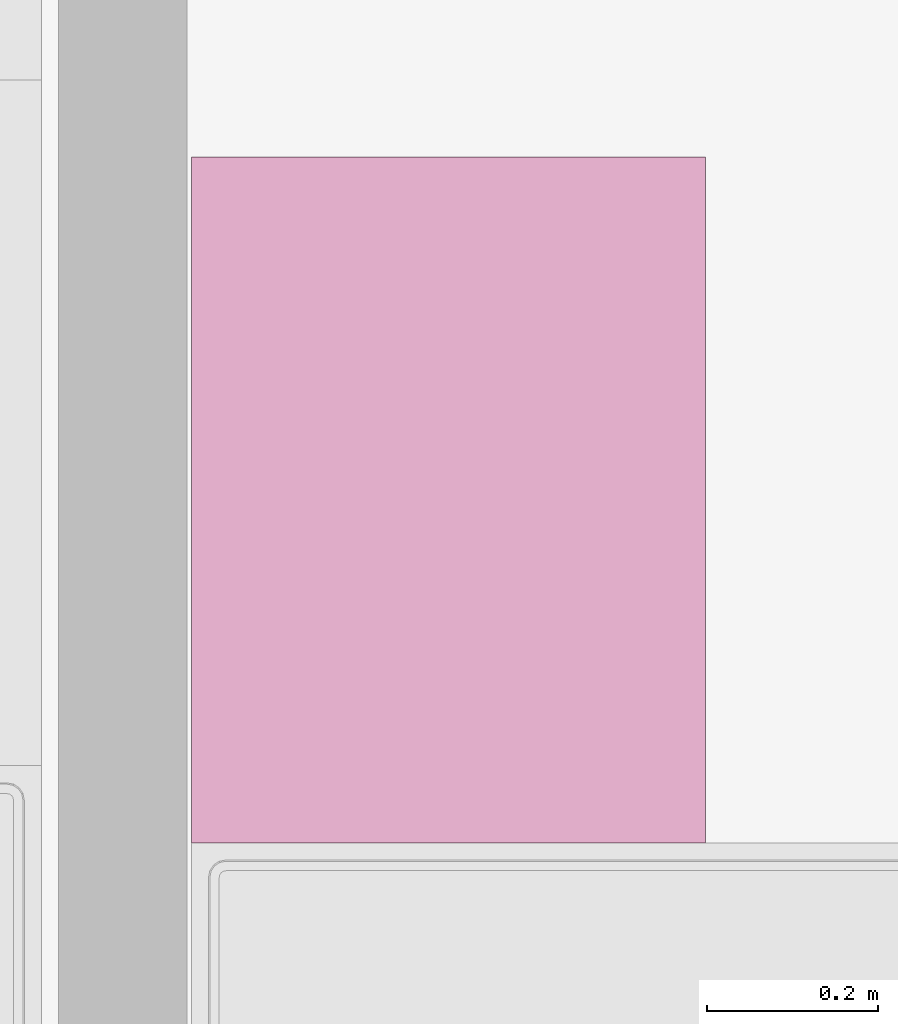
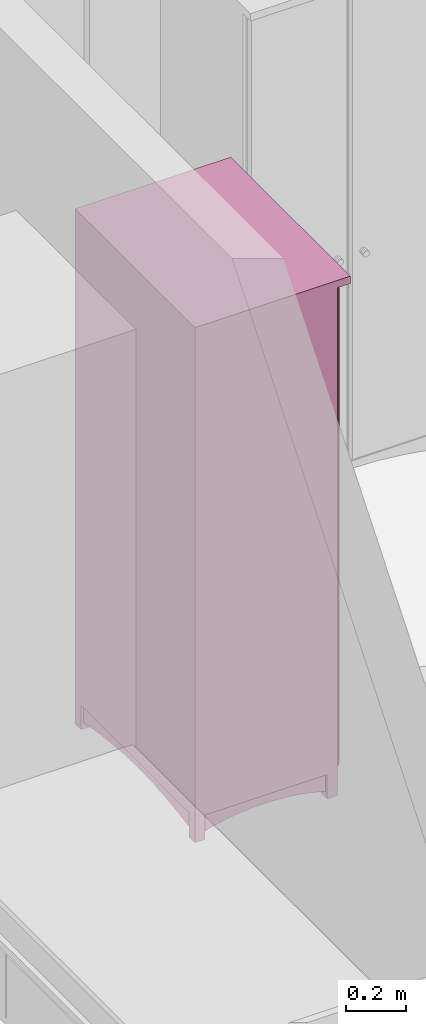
# One storey, part 79 of 172: 1 furnishing.
"""IFC2X3 building model written with IfcOpenShell, lengths in millimetres."""

from ifc_helpers import new_model, entity, si_unit, converted_unit, money_unit, direction, frame, origin_with_axes, place, context, subcontext, project, spatial, faceted_brep, source, transform, mapped, material, material_list, type_object, element, save


model = new_model("IFC2X3")

# Units and contexts
model_context = context("Model", 3, precision=1e-05, world=origin_with_axes(), true_north=direction((0.0, 1.0)))
body_context = subcontext(model_context, "Body", "Model", "MODEL_VIEW")
ifc_project = project(units=[si_unit("LENGTHUNIT", "METRE", prefix="MILLI"), si_unit("AREAUNIT", "SQUARE_METRE"), si_unit("VOLUMEUNIT", "CUBIC_METRE"), converted_unit("PLANEANGLEUNIT", "DEGREE", entity("IfcPlaneAngleMeasure", 0.0174532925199), si_unit("PLANEANGLEUNIT", "RADIAN"), dimensions=[0, 0, 0, 0, 0, 0, 0]), si_unit("SOLIDANGLEUNIT", "STERADIAN"), money_unit("USD"), converted_unit("TIMEUNIT", "Year", entity("IfcTimeMeasure", 31556926.0), si_unit("TIMEUNIT", "SECOND"), dimensions=[0, 0, 0, 0, 0, 0, 0]), si_unit("MASSUNIT", "GRAM"), si_unit("THERMODYNAMICTEMPERATUREUNIT", "DEGREE_CELSIUS"), si_unit("LUMINOUSINTENSITYUNIT", "LUMEN")], contexts=[model_context])

# Site, building, storey
site_placement = place(None, origin_with_axes())
site = spatial("IfcSite", under=ifc_project, at=site_placement, Name="Site", CompositionType="ELEMENT")
building_placement = place(site_placement, origin_with_axes())
building = spatial("IfcBuilding", under=site, at=building_placement, Name="Building", CompositionType="ELEMENT")
storey_placement = place(building_placement, frame((0.0, 0.0, 3200.0), z_axis=(0.0, 0.0, 1.0), x_axis=(1.0, 0.0, 0.0)))
storey = spatial("IfcBuildingStorey", under=building, at=storey_placement, Name="3KORRUS", CompositionType="ELEMENT", Elevation=3200.0)

# Furnishing
ifc_material = material(Name="Background")
ifc_material_list = material_list([ifc_material])
furnishing_element_type = type_object("IfcFurnishingElementType", Name="Cupboard 19")
shared_shape = source(origin_with_axes(), body_context, "Body", "Brep", [
    faceted_brep([(780.0, 600.0, 120.0), (780.0, 600.0, 2050.0), (780.0, 580.0, 2050.0), (780.0, 580.0, 120.0), (20.0, 600.0, 120.0), (20.0, 600.0, 2050.0), (20.0, 580.0, 2050.0), (20.0, 580.0, 120.0)], [[[0, 1, 2, 3]], [[4, 5, 1, 0]], [[1, 5, 6, 2]], [[3, 2, 6, 7]], [[0, 3, 7, 4]], [[7, 6, 5, 4]]]),
    faceted_brep([(0.0, 50.0, 100.0), (0.0, 600.0, 100.0), (20.0, 600.0, 100.0), (20.0, 50.0, 100.0), (0.0, 50.0, 2070.0), (0.0, 600.0, 2070.0), (20.0, 600.0, 2070.0), (20.0, 50.0, 2070.0)], [[[0, 1, 2, 3]], [[0, 4, 5, 1]], [[1, 5, 6, 2]], [[2, 6, 7, 3]], [[3, 7, 4, 0]], [[7, 6, 5, 4]]]),
    faceted_brep([(780.0, 50.0, 100.0), (780.0, 600.0, 100.0), (800.0, 600.0, 100.0), (800.0, 50.0, 100.0), (780.0, 50.0, 2070.0), (780.0, 600.0, 2070.0), (800.0, 600.0, 2070.0), (800.0, 50.0, 2070.0)], [[[0, 1, 2, 3]], [[0, 4, 5, 1]], [[1, 5, 6, 2]], [[2, 6, 7, 3]], [[3, 7, 4, 0]], [[7, 6, 5, 4]]]),
    faceted_brep([(20.0, 50.0, 100.0), (20.0, 600.0, 100.0), (780.0, 600.0, 100.0), (780.0, 50.0, 100.0), (20.0, 50.0, 120.0), (20.0, 600.0, 120.0), (780.0, 600.0, 120.0), (780.0, 50.0, 120.0)], [[[0, 1, 2, 3]], [[0, 4, 5, 1]], [[1, 5, 6, 2]], [[2, 6, 7, 3]], [[3, 7, 4, 0]], [[7, 6, 5, 4]]]),
    faceted_brep([(20.0, 50.0, 2050.0), (20.0, 600.0, 2050.0), (780.0, 600.0, 2050.0), (780.0, 50.0, 2050.0), (20.0, 50.0, 2070.0), (20.0, 600.0, 2070.0), (780.0, 600.0, 2070.0), (780.0, 50.0, 2070.0)], [[[0, 1, 2, 3]], [[0, 4, 5, 1]], [[1, 5, 6, 2]], [[2, 6, 7, 3]], [[3, 7, 4, 0]], [[7, 6, 5, 4]]]),
    faceted_brep([(0.0, 600.0, 2070.0), (0.0, 0.0, 2070.0), (0.0, 0.0, 2100.0), (0.0, 600.0, 2100.0), (800.0, 600.0, 2070.0), (800.0, 0.0, 2070.0), (800.0, 0.0, 2100.0), (800.0, 600.0, 2100.0)], [[[0, 1, 2, 3]], [[0, 4, 5, 1]], [[1, 5, 6, 2]], [[3, 2, 6, 7]], [[4, 0, 3, 7]], [[5, 4, 7, 6]]]),
    faceted_brep([(760.0, 590.0, 25.0), (760.0, 570.0, 25.0), (640.962, 570.0, 45.8), (640.962, 590.0, 45.8), (760.0, 590.0, 100.0), (760.0, 570.0, 100.0), (40.0, 570.0, 100.0), (40.0, 570.0, 25.0), (159.038, 570.0, 45.8), (279.23, 570.0, 58.32), (400.0, 570.0, 62.5), (520.77, 570.0, 58.32), (520.77, 590.0, 58.32), (400.0, 590.0, 62.5), (279.23, 590.0, 58.32), (159.038, 590.0, 45.8), (40.0, 590.0, 25.0), (40.0, 590.0, 100.0)], [[[0, 1, 2, 3]], [[4, 5, 1, 0]], [[1, 5, 6, 7, 8, 9, 10, 11, 2]], [[3, 2, 11, 12]], [[0, 3, 12, 13, 14, 15, 16, 17, 4]], [[17, 6, 5, 4]], [[16, 7, 6, 17]], [[15, 8, 7, 16]], [[14, 9, 8, 15]], [[13, 10, 9, 14]], [[12, 11, 10, 13]]]),
    faceted_brep([(760.0, 80.0, 25.0), (760.0, 60.0, 25.0), (640.962, 60.0, 45.8), (640.962, 80.0, 45.8), (760.0, 80.0, 100.0), (760.0, 60.0, 100.0), (40.0, 60.0, 100.0), (40.0, 60.0, 25.0), (159.038, 60.0, 45.8), (279.23, 60.0, 58.32), (400.0, 60.0, 62.5), (520.77, 60.0, 58.32), (520.77, 80.0, 58.32), (400.0, 80.0, 62.5), (279.23, 80.0, 58.32), (159.038, 80.0, 45.8), (40.0, 80.0, 25.0), (40.0, 80.0, 100.0)], [[[0, 1, 2, 3]], [[4, 5, 1, 0]], [[1, 5, 6, 7, 8, 9, 10, 11, 2]], [[3, 2, 11, 12]], [[0, 3, 12, 13, 14, 15, 16, 17, 4]], [[17, 6, 5, 4]], [[16, 7, 6, 17]], [[15, 8, 7, 16]], [[14, 9, 8, 15]], [[13, 10, 9, 14]], [[12, 11, 10, 13]]]),
    faceted_brep([(790.0, 90.0, 25.0), (770.0, 90.0, 25.0), (770.0, 141.266, 38.072), (790.0, 141.266, 38.072), (790.0, 90.0, 100.0), (770.0, 90.0, 100.0), (770.0, 560.0, 100.0), (770.0, 560.0, 25.0), (770.0, 508.734, 38.072), (770.0, 456.752, 47.92), (770.0, 404.257, 54.508), (770.0, 351.453, 57.808), (770.0, 298.547, 57.808), (770.0, 245.743, 54.508), (770.0, 193.248, 47.92), (790.0, 193.248, 47.92), (790.0, 245.743, 54.508), (790.0, 298.547, 57.808), (790.0, 351.453, 57.808), (790.0, 404.257, 54.508), (790.0, 456.752, 47.92), (790.0, 508.734, 38.072), (790.0, 560.0, 25.0), (790.0, 560.0, 100.0)], [[[0, 1, 2, 3]], [[4, 5, 1, 0]], [[1, 5, 6, 7, 8, 9, 10, 11, 12, 13, 14, 2]], [[3, 2, 14, 15]], [[0, 3, 15, 16, 17, 18, 19, 20, 21, 22, 23, 4]], [[23, 6, 5, 4]], [[22, 7, 6, 23]], [[21, 8, 7, 22]], [[20, 9, 8, 21]], [[19, 10, 9, 20]], [[18, 11, 10, 19]], [[17, 12, 11, 18]], [[16, 13, 12, 17]], [[15, 14, 13, 16]]]),
    faceted_brep([(30.0, 90.0, 25.0), (10.0, 90.0, 25.0), (10.0, 141.266, 38.072), (30.0, 141.266, 38.072), (30.0, 90.0, 100.0), (10.0, 90.0, 100.0), (10.0, 560.0, 100.0), (10.0, 560.0, 25.0), (10.0, 508.734, 38.072), (10.0, 456.752, 47.92), (10.0, 404.257, 54.508), (10.0, 351.453, 57.808), (10.0, 298.547, 57.808), (10.0, 245.743, 54.508), (10.0, 193.248, 47.92), (30.0, 193.248, 47.92), (30.0, 245.743, 54.508), (30.0, 298.547, 57.808), (30.0, 351.453, 57.808), (30.0, 404.257, 54.508), (30.0, 456.752, 47.92), (30.0, 508.734, 38.072), (30.0, 560.0, 25.0), (30.0, 560.0, 100.0)], [[[0, 1, 2, 3]], [[4, 5, 1, 0]], [[1, 5, 6, 7, 8, 9, 10, 11, 12, 13, 14, 2]], [[3, 2, 14, 15]], [[0, 3, 15, 16, 17, 18, 19, 20, 21, 22, 23, 4]], [[23, 6, 5, 4]], [[22, 7, 6, 23]], [[21, 8, 7, 22]], [[20, 9, 8, 21]], [[19, 10, 9, 20]], [[18, 11, 10, 19]], [[17, 12, 11, 18]], [[16, 13, 12, 17]], [[15, 14, 13, 16]]]),
    faceted_brep([(760.0, 560.0, 0.0), (760.0, 560.0, 100.0), (760.0, 600.0, 100.0), (760.0, 600.0, 0.0), (800.0, 560.0, 0.0), (800.0, 560.0, 100.0), (800.0, 600.0, 100.0), (800.0, 600.0, 0.0)], [[[0, 1, 2, 3]], [[4, 5, 1, 0]], [[1, 5, 6, 2]], [[3, 2, 6, 7]], [[0, 3, 7, 4]], [[7, 6, 5, 4]]]),
    faceted_brep([(0.0, 560.0, 0.0), (0.0, 560.0, 100.0), (0.0, 600.0, 100.0), (0.0, 600.0, 0.0), (40.0, 560.0, 0.0), (40.0, 560.0, 100.0), (40.0, 600.0, 100.0), (40.0, 600.0, 0.0)], [[[0, 1, 2, 3]], [[4, 5, 1, 0]], [[1, 5, 6, 2]], [[3, 2, 6, 7]], [[0, 3, 7, 4]], [[7, 6, 5, 4]]]),
    faceted_brep([(760.0, 50.0, 0.0), (760.0, 50.0, 100.0), (760.0, 90.0, 100.0), (760.0, 90.0, 0.0), (800.0, 50.0, 0.0), (800.0, 50.0, 100.0), (800.0, 90.0, 100.0), (800.0, 90.0, 0.0)], [[[0, 1, 2, 3]], [[4, 5, 1, 0]], [[1, 5, 6, 2]], [[3, 2, 6, 7]], [[0, 3, 7, 4]], [[7, 6, 5, 4]]]),
    faceted_brep([(0.0, 50.0, 0.0), (0.0, 50.0, 100.0), (0.0, 90.0, 100.0), (0.0, 90.0, 0.0), (40.0, 50.0, 0.0), (40.0, 50.0, 100.0), (40.0, 90.0, 100.0), (40.0, 90.0, 0.0)], [[[0, 1, 2, 3]], [[4, 5, 1, 0]], [[1, 5, 6, 2]], [[3, 2, 6, 7]], [[0, 3, 7, 4]], [[7, 6, 5, 4]]]),
    faceted_brep([(780.0, 580.0, 587.5), (780.0, 580.0, 607.5), (780.0, 50.0, 607.5), (780.0, 50.0, 587.5), (20.0, 580.0, 587.5), (20.0, 580.0, 607.5), (20.0, 50.0, 607.5), (20.0, 50.0, 587.5)], [[[0, 1, 2, 3]], [[4, 5, 1, 0]], [[1, 5, 6, 2]], [[3, 2, 6, 7]], [[0, 3, 7, 4]], [[7, 6, 5, 4]]]),
    faceted_brep([(780.0, 580.0, 1075.0), (780.0, 580.0, 1095.0), (780.0, 50.0, 1095.0), (780.0, 50.0, 1075.0), (20.0, 580.0, 1075.0), (20.0, 580.0, 1095.0), (20.0, 50.0, 1095.0), (20.0, 50.0, 1075.0)], [[[0, 1, 2, 3]], [[4, 5, 1, 0]], [[1, 5, 6, 2]], [[3, 2, 6, 7]], [[0, 3, 7, 4]], [[7, 6, 5, 4]]]),
    faceted_brep([(780.0, 580.0, 1562.5), (780.0, 580.0, 1582.5), (780.0, 50.0, 1582.5), (780.0, 50.0, 1562.5), (20.0, 580.0, 1562.5), (20.0, 580.0, 1582.5), (20.0, 50.0, 1582.5), (20.0, 50.0, 1562.5)], [[[0, 1, 2, 3]], [[4, 5, 1, 0]], [[1, 5, 6, 2]], [[3, 2, 6, 7]], [[0, 3, 7, 4]], [[7, 6, 5, 4]]]),
    faceted_brep([(789.5, 50.0, 110.5), (400.5, 50.0, 110.5), (400.5, 50.0, 2059.5), (789.5, 50.0, 2059.5), (789.5, 40.0, 110.5), (400.5, 40.0, 110.5), (400.5, 40.0, 2059.5), (789.5, 40.0, 2059.5), (779.5, 30.0, 120.5), (410.5, 30.0, 120.5), (410.5, 30.0, 2049.5), (779.5, 30.0, 2049.5)], [[[0, 1, 2, 3]], [[0, 4, 5, 1]], [[1, 5, 6, 2]], [[2, 6, 7, 3]], [[3, 7, 4, 0]], [[4, 8, 9, 5]], [[5, 9, 10, 6]], [[6, 10, 11, 7]], [[7, 11, 8, 4]], [[10, 9, 8, 11]]]),
    faceted_brep([(399.5, 50.0, 110.5), (10.5, 50.0, 110.5), (10.5, 50.0, 2059.5), (399.5, 50.0, 2059.5), (399.5, 40.0, 110.5), (10.5, 40.0, 110.5), (10.5, 40.0, 2059.5), (399.5, 40.0, 2059.5), (389.5, 30.0, 120.5), (20.5, 30.0, 120.5), (20.5, 30.0, 2049.5), (389.5, 30.0, 2049.5)], [[[0, 1, 2, 3]], [[0, 4, 5, 1]], [[1, 5, 6, 2]], [[2, 6, 7, 3]], [[3, 7, 4, 0]], [[4, 8, 9, 5]], [[5, 9, 10, 6]], [[6, 10, 11, 7]], [[7, 11, 8, 4]], [[10, 9, 8, 11]]]),
    faceted_brep([(339.608, 30.0, 954.0), (338.0, 30.0, 960.0), (339.608, 30.0, 966.0), (344.0, 30.0, 970.392), (350.0, 30.0, 972.0), (356.0, 30.0, 970.392), (360.392, 30.0, 966.0), (362.0, 30.0, 960.0), (360.392, 30.0, 954.0), (356.0, 30.0, 949.608), (350.0, 30.0, 948.0), (344.0, 30.0, 949.608), (339.608, 5.0, 954.0), (338.0, 5.0, 960.0), (339.608, 5.0, 966.0), (344.0, 5.0, 970.392), (350.0, 5.0, 972.0), (356.0, 5.0, 970.392), (360.392, 5.0, 966.0), (362.0, 5.0, 960.0), (360.392, 5.0, 954.0), (356.0, 5.0, 949.608), (350.0, 5.0, 948.0), (344.0, 5.0, 949.608)], [[[0, 1, 2, 3, 4, 5, 6, 7, 8, 9, 10, 11]], [[0, 12, 13, 1]], [[1, 13, 14, 2]], [[2, 14, 15, 3]], [[3, 15, 16, 4]], [[4, 16, 17, 5]], [[5, 17, 18, 6]], [[6, 18, 19, 7]], [[7, 19, 20, 8]], [[8, 20, 21, 9]], [[9, 21, 22, 10]], [[10, 22, 23, 11]], [[11, 23, 12, 0]], [[12, 23, 22, 21, 20, 19, 18, 17, 16, 15, 14, 13]]]),
    faceted_brep([(460.392, 30.0, 954.0), (456.0, 30.0, 949.608), (450.0, 30.0, 948.0), (444.0, 30.0, 949.608), (439.608, 30.0, 954.0), (438.0, 30.0, 960.0), (439.608, 30.0, 966.0), (444.0, 30.0, 970.392), (450.0, 30.0, 972.0), (456.0, 30.0, 970.392), (460.392, 30.0, 966.0), (462.0, 30.0, 960.0), (460.392, 5.0, 954.0), (456.0, 5.0, 949.608), (450.0, 5.0, 948.0), (444.0, 5.0, 949.608), (439.608, 5.0, 954.0), (438.0, 5.0, 960.0), (439.608, 5.0, 966.0), (444.0, 5.0, 970.392), (450.0, 5.0, 972.0), (456.0, 5.0, 970.392), (460.392, 5.0, 966.0), (462.0, 5.0, 960.0)], [[[0, 1, 2, 3, 4, 5, 6, 7, 8, 9, 10, 11]], [[1, 0, 12, 13]], [[2, 1, 13, 14]], [[3, 2, 14, 15]], [[4, 3, 15, 16]], [[5, 4, 16, 17]], [[6, 5, 17, 18]], [[7, 6, 18, 19]], [[8, 7, 19, 20]], [[9, 8, 20, 21]], [[10, 9, 21, 22]], [[11, 10, 22, 23]], [[0, 11, 23, 12]], [[12, 23, 22, 21, 20, 19, 18, 17, 16, 15, 14, 13]]]),
])
furnishing_placement = place(storey_placement, frame((-44465.2967033, -17529.2398994, 0.0), z_axis=(0.0, 0.0, 1.0), x_axis=(0.0, 1.0, 0.0)))
element("IfcFurnishingElement", 1, at=furnishing_placement, inside=storey, type_object=furnishing_element_type, material=ifc_material_list, Name="FU - 014", context=body_context, shape_type="MappedRepresentation", body=[
    mapped(shared_shape, transform((0.0, 0.0, 0.0))),
])

save(model, "model.ifc")
